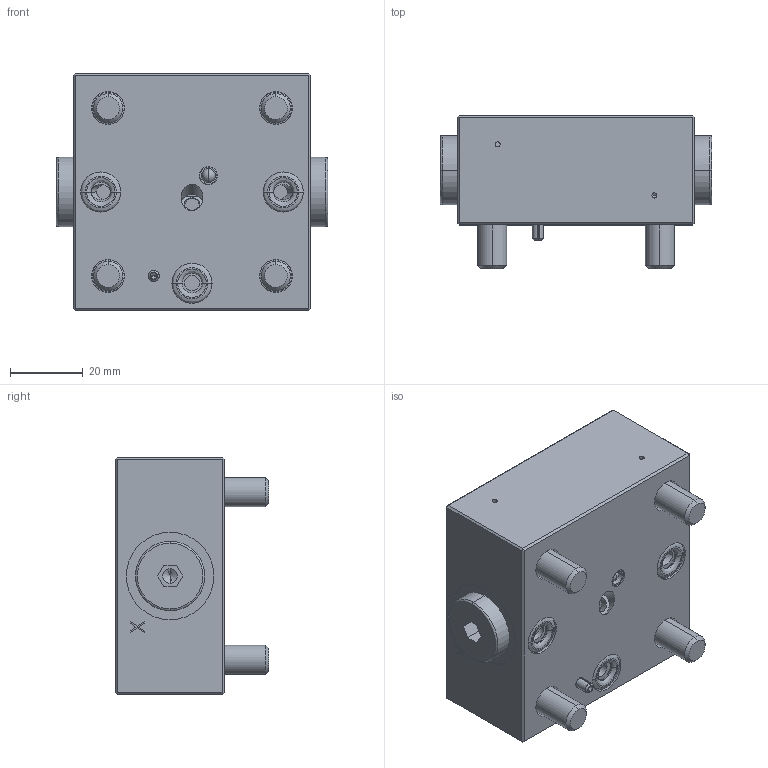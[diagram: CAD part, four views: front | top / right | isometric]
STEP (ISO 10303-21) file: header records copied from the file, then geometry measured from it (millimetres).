
FILE_DESCRIPTION (( 'STEP AP214' ), '1' );
FILE_NAME ('D1643...STEP', '2017-03-17T14:12:07', ( '' ), ( '' ), 'SwSTEP 2.0', 'SolidWorks 2016', '' );
FILE_SCHEMA (( 'AUTOMOTIVE_DESIGN' ));
Length unit declared in the file: millimetre
Products named in the file (1): D1643..
Bounding box: 74.4 x 42 x 65 mm (x, y, z)
Volume: 124107 mm3; surface area: 29993.6 mm2
Topology: 12 solids, 16 shells, 389 faces, 875 edges, 537 vertices
Faces by surface type: plane 160, cylinder 127, cone 48, bspline 24, torus 20, sphere 10
Entity records: 15319 total; most frequent: CARTESIAN_POINT 2302, DIRECTION 1941, ORIENTED_EDGE 1706, EDGE_CURVE 853, AXIS2_PLACEMENT_3D 770, VERTEX_POINT 537, EDGE_LOOP 456, CIRCLE 404
